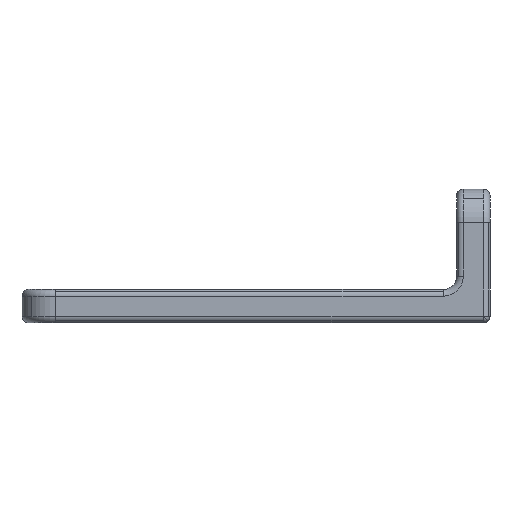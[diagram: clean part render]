
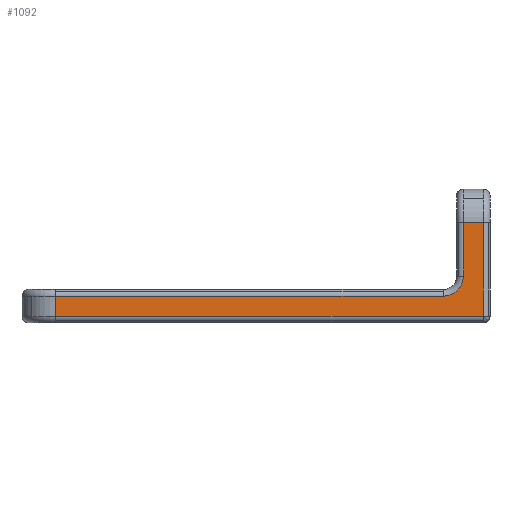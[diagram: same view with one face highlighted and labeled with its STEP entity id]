
A CAD part, front view. The second image highlights one B-rep face of the part: STEP entity #1092.
In plain terms, the highlighted planar face has unit normal (0, -1, 0).
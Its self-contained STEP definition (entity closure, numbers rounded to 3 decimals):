
#1092=ADVANCED_FACE('',(#2623),#2624,.T.);
#2623=FACE_OUTER_BOUND('',#3879,.T.);
#2624=PLANE('',#3880);
#3879=EDGE_LOOP('',(#8480,#8481,#8482,#8483,#8484,#8485,#8486));
#3880=AXIS2_PLACEMENT_3D('',#8487,#8488,#8489);
#8480=ORIENTED_EDGE('',*,*,#10129,.F.);
#8481=ORIENTED_EDGE('',*,*,#10259,.F.);
#8482=ORIENTED_EDGE('',*,*,#10252,.F.);
#8483=ORIENTED_EDGE('',*,*,#10227,.F.);
#8484=ORIENTED_EDGE('',*,*,#10251,.F.);
#8485=ORIENTED_EDGE('',*,*,#10261,.F.);
#8486=ORIENTED_EDGE('',*,*,#9016,.F.);
#8487=CARTESIAN_POINT('',(-242.069,62.5,-6.0));
#8488=DIRECTION('',(0.0,-1.0,0.0));
#8489=DIRECTION('',(0.0,0.0,-1.0));
#9016=EDGE_CURVE('',#10839,#10841,#10842,.T.);
#10129=EDGE_CURVE('',#12684,#10839,#12691,.T.);
#10227=EDGE_CURVE('',#12825,#12827,#12828,.T.);
#10251=EDGE_CURVE('',#12853,#12825,#12856,.T.);
#10252=EDGE_CURVE('',#12827,#12822,#12857,.T.);
#10259=EDGE_CURVE('',#12822,#12684,#12865,.T.);
#10261=EDGE_CURVE('',#10841,#12853,#12867,.T.);
#10839=VERTEX_POINT('',#13220);
#10841=VERTEX_POINT('',#13222);
#10842=LINE('',#13223,#13224);
#12684=VERTEX_POINT('',#15635);
#12691=LINE('',#15642,#15643);
#12822=VERTEX_POINT('',#15801);
#12825=VERTEX_POINT('',#15804);
#12827=VERTEX_POINT('',#15806);
#12828=CIRCLE('',#15807,3.0);
#12853=VERTEX_POINT('',#15835);
#12856=LINE('',#15838,#15839);
#12857=LINE('',#15840,#15841);
#12865=LINE('',#15852,#15853);
#12867=LINE('',#15856,#15857);
#13220=CARTESIAN_POINT('',(-238.069,62.5,-10.0));
#13222=CARTESIAN_POINT('',(-302.069,62.5,-10.0));
#13223=CARTESIAN_POINT('',(-274.569,62.5,-10.0));
#13224=VECTOR('',#16158,1.0);
#15635=CARTESIAN_POINT('',(-238.069,62.5,4.));
#15642=CARTESIAN_POINT('',(-238.069,62.5,1.5));
#15643=VECTOR('',#18357,1.0);
#15801=CARTESIAN_POINT('',(-241.069,62.5,4.));
#15804=CARTESIAN_POINT('',(-244.069,62.5,-7.0));
#15806=CARTESIAN_POINT('',(-241.069,62.5,-4.0));
#15807=AXIS2_PLACEMENT_3D('',#18595,#18596,#18597);
#15835=CARTESIAN_POINT('',(-302.069,62.5,-7.0));
#15838=CARTESIAN_POINT('',(-274.569,62.5,-7.0));
#15839=VECTOR('',#18661,1.0);
#15840=CARTESIAN_POINT('',(-241.069,62.5,1.5));
#15841=VECTOR('',#18662,1.0);
#15852=CARTESIAN_POINT('',(-242.069,62.5,4.));
#15853=VECTOR('',#18675,1.0);
#15856=CARTESIAN_POINT('',(-302.069,62.5,-6.0));
#15857=VECTOR('',#18677,1.0);
#16158=DIRECTION('',(-1.0,0.0,0.0));
#18357=DIRECTION('',(0.0,0.0,-1.0));
#18595=CARTESIAN_POINT('',(-244.069,62.5,-4.0));
#18596=DIRECTION('',(0.0,-1.0,0.0));
#18597=DIRECTION('',(0.707,0.0,-0.707));
#18661=DIRECTION('',(1.0,0.0,0.0));
#18662=DIRECTION('',(0.0,0.0,1.0));
#18675=DIRECTION('',(1.0,0.0,0.0));
#18677=DIRECTION('',(0.0,0.0,1.0));
